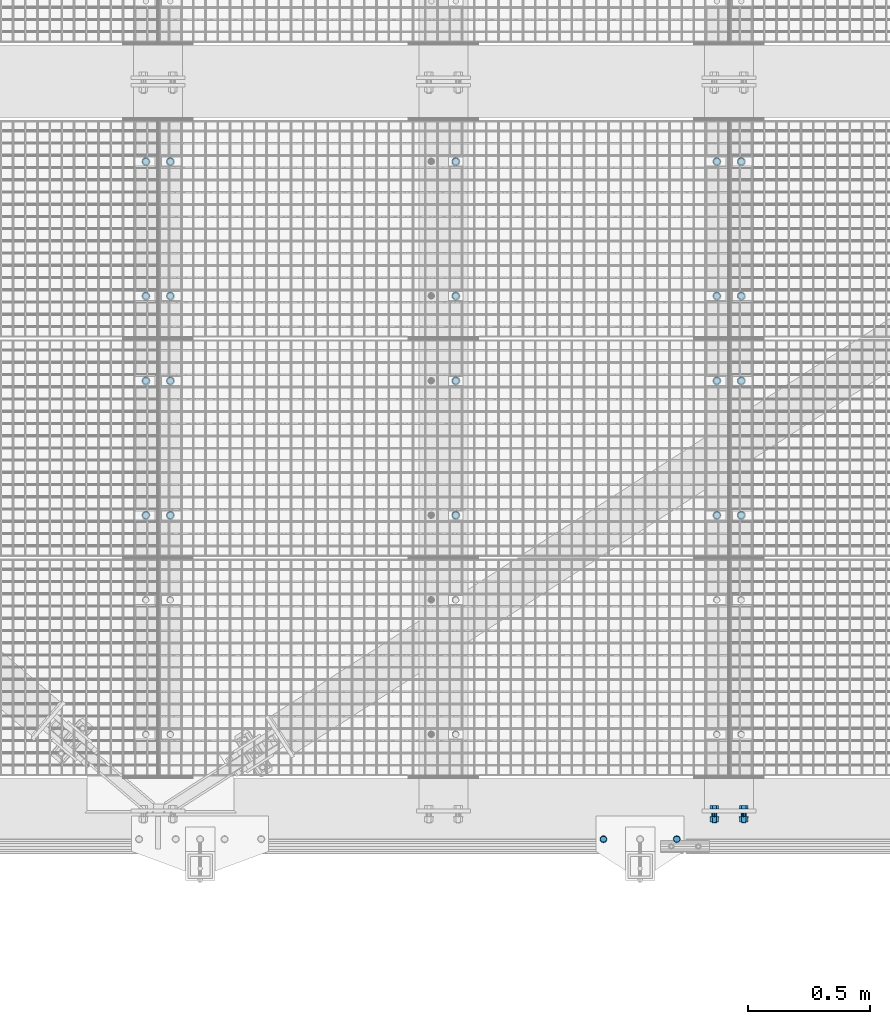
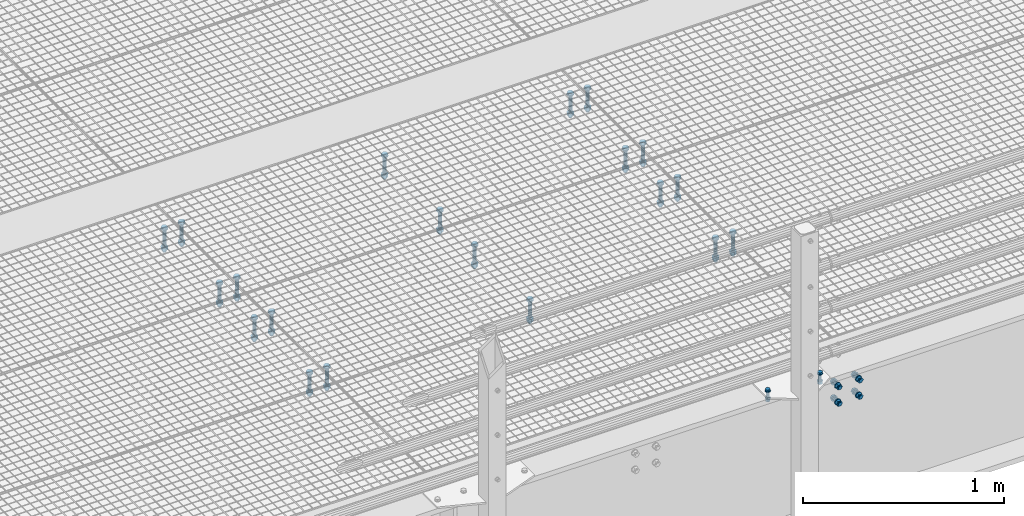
# One storey, part 19 of 1530: 12 mechanical fasteners.
"""IFC2X3 building model written with IfcOpenShell, lengths in millimetres."""

from ifc_helpers import new_model, si_unit, frame, origin_with_axes, place, context, subcontext, project, spatial, faceted_brep, source, transform, mapped, material, type_object, element, save


model = new_model("IFC2X3")

# Units and contexts
model_context = context("Model", 3, precision=1e-05, world=origin_with_axes())
body_context = subcontext(model_context, "Body", "Model", "MODEL_VIEW")
ifc_project = project(units=[si_unit("LENGTHUNIT", "METRE", prefix="MILLI"), si_unit("AREAUNIT", "SQUARE_METRE"), si_unit("VOLUMEUNIT", "CUBIC_METRE"), si_unit("MASSUNIT", "GRAM", prefix="KILO"), si_unit("TIMEUNIT", "SECOND"), si_unit("PLANEANGLEUNIT", "RADIAN"), si_unit("SOLIDANGLEUNIT", "STERADIAN"), si_unit("THERMODYNAMICTEMPERATUREUNIT", "DEGREE_CELSIUS"), si_unit("LUMINOUSINTENSITYUNIT", "LUMEN")], contexts=[model_context])

# Site, building, storey
site_placement = place(None, origin_with_axes())
site = spatial("IfcSite", under=ifc_project, at=site_placement, Name="Brattvåg", CompositionType="ELEMENT")
building_placement = place(site_placement, origin_with_axes())
building = spatial("IfcBuilding", under=site, at=building_placement, Name="Undefined", CompositionType="ELEMENT")
storey_placement = place(building_placement, origin_with_axes())
storey = spatial("IfcBuildingStorey", under=building, at=storey_placement, Name="Undefined", CompositionType="ELEMENT", Elevation=0.0)

# Mechanical fasteners
ifc_material = material(Name="8")
mechanical_fastener_type = type_object("IfcMechanicalFastenerType", Name="Bolt assembly")
shared_shape_1 = source(origin_with_axes(), body_context, "Body", "Brep", [
    faceted_brep([(17.3205080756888, -10.5, 0.0), (8.66025403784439, -10.5, 15.0), (-8.66025403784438, -10.5, 15.0), (-17.3205080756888, -10.5, 2.12115047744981e-15), (-8.66025403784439, -10.5, -15.0), (8.66025403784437, -10.5, -15.0), (8.66025403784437, 2.0, -15.0), (-8.66025403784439, 2.0, -15.0), (-17.3205080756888, 2.0, 2.12115047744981e-15), (-8.66025403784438, 2.0, 15.0), (8.66025403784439, 2.0, 15.0), (17.3205080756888, 2.0, 0.0), (10.0, 2.0, 0.0), (8.66025403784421, 2.0, 5.0000000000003), (4.9999999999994, 2.0, 8.66025403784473), (-1.03633598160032e-12, 2.0, 10.0), (-5.00000000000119, 2.0, 8.6602540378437), (-8.66025403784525, 2.0, 4.99999999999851), (-10.0, 2.0, -2.07267196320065e-12), (-8.66025403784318, 2.0, -5.00000000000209), (-4.99999999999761, 2.0, -8.66025403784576), (3.09790571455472e-12, 2.0, -10.0), (5.00000000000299, 2.0, -8.66025403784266), (8.66025403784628, 2.0, -4.99999999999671), (8.66025403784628, 142.0, -4.99999999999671), (5.00000000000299, 142.0, -8.66025403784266), (3.09790571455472e-12, 142.0, -10.0), (-4.99999999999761, 142.0, -8.66025403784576), (-8.66025403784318, 142.0, -5.00000000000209), (-10.0, 142.0, -2.07267196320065e-12), (-8.66025403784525, 142.0, 4.99999999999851), (-5.00000000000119, 142.0, 8.6602540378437), (-1.03633598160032e-12, 142.0, 10.0), (4.9999999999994, 142.0, 8.66025403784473), (8.66025403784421, 142.0, 5.0000000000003), (10.0, 142.0, 0.0), (18.5, 2.0, 0.0), (16.0214699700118, 2.0, 9.25000000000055), (9.2499999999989, 2.0, 16.0214699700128), (-1.9172215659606e-12, 2.0, 18.5), (-9.25000000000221, 2.0, 16.0214699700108), (-16.0214699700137, 2.0, 9.24999999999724), (-18.5, 2.0, -3.83444313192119e-12), (-16.0214699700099, 2.0, -9.25000000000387), (-9.24999999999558, 2.0, -16.0214699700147), (5.73112557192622e-12, 2.0, -18.5), (9.25000000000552, 2.0, -16.0214699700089), (16.0214699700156, 2.0, -9.24999999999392), (16.0214699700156, 5.0, -9.24999999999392), (9.25000000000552, 5.0, -16.0214699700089), (5.73112557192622e-12, 5.0, -18.5), (-9.24999999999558, 5.0, -16.0214699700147), (-16.0214699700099, 5.0, -9.25000000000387), (-18.5, 5.0, -3.83444313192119e-12), (-16.0214699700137, 5.0, 9.24999999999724), (-9.25000000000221, 5.0, 16.0214699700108), (-1.9172215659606e-12, 5.0, 18.5), (9.2499999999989, 5.0, 16.0214699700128), (16.0214699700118, 5.0, 9.25000000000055), (18.5, 5.0, 0.0), (18.5, 109.998931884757, 0.0), (16.0214699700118, 109.998931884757, 9.25000000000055), (9.2499999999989, 109.998931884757, 16.0214699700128), (-1.9172215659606e-12, 109.998931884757, 18.5), (-9.25000000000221, 109.998931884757, 16.0214699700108), (-16.0214699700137, 109.998931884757, 9.24999999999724), (-18.5, 109.998931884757, -3.83444313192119e-12), (-16.0214699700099, 109.998931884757, -9.25000000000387), (-9.24999999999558, 109.998931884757, -16.0214699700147), (5.73112557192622e-12, 109.998931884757, -18.5), (9.25000000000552, 109.998931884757, -16.0214699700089), (16.0214699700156, 109.998931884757, -9.24999999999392), (16.0214699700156, 112.998931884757, -9.24999999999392), (9.25000000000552, 112.998931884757, -16.0214699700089), (5.73112557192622e-12, 112.998931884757, -18.5), (-9.24999999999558, 112.998931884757, -16.0214699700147), (-16.0214699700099, 112.998931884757, -9.25000000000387), (-18.5, 112.998931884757, -3.83444313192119e-12), (-16.0214699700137, 112.998931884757, 9.24999999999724), (-9.25000000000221, 112.998931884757, 16.0214699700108), (-1.9172215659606e-12, 112.998931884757, 18.5), (9.2499999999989, 112.998931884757, 16.0214699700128), (16.0214699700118, 112.998931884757, 9.25000000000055), (18.5, 112.998931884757, 0.0), (17.3205080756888, 112.998931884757, 0.0), (8.66025403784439, 112.998931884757, 15.0), (-8.66025403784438, 112.998931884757, 15.0), (-17.3205080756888, 112.998931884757, 2.12115047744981e-15), (-8.66025403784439, 112.998931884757, -15.0), (8.66025403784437, 112.998931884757, -15.0), (8.66025403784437, 130.998931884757, -15.0), (-8.66025403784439, 130.998931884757, -15.0), (-17.3205080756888, 130.998931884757, 2.12115047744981e-15), (-8.66025403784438, 130.998931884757, 15.0), (8.66025403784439, 130.998931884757, 15.0), (17.3205080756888, 130.998931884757, 0.0)], [[[0, 1, 2, 3, 4, 5]], [[6, 7, 8, 9, 10, 11]], [[0, 11, 10, 1]], [[1, 10, 9, 2]], [[2, 9, 8, 3]], [[3, 8, 7, 4]], [[4, 7, 6, 5]], [[5, 6, 11, 0]], [[12, 13, 14, 15, 16, 17, 18, 19, 20, 21, 22, 23]], [[24, 25, 26, 27, 28, 29, 30, 31, 32, 33, 34, 35]], [[12, 35, 34, 13]], [[13, 34, 33, 14]], [[14, 33, 32, 15]], [[15, 32, 31, 16]], [[16, 31, 30, 17]], [[17, 30, 29, 18]], [[18, 29, 28, 19]], [[19, 28, 27, 20]], [[20, 27, 26, 21]], [[21, 26, 25, 22]], [[22, 25, 24, 23]], [[23, 24, 35, 12]], [[36, 37, 38, 39, 40, 41, 42, 43, 44, 45, 46, 47]], [[48, 49, 50, 51, 52, 53, 54, 55, 56, 57, 58, 59]], [[36, 59, 58, 37]], [[37, 58, 57, 38]], [[38, 57, 56, 39]], [[39, 56, 55, 40]], [[40, 55, 54, 41]], [[41, 54, 53, 42]], [[42, 53, 52, 43]], [[43, 52, 51, 44]], [[44, 51, 50, 45]], [[45, 50, 49, 46]], [[46, 49, 48, 47]], [[47, 48, 59, 36]], [[60, 61, 62, 63, 64, 65, 66, 67, 68, 69, 70, 71]], [[72, 73, 74, 75, 76, 77, 78, 79, 80, 81, 82, 83]], [[60, 83, 82, 61]], [[61, 82, 81, 62]], [[62, 81, 80, 63]], [[63, 80, 79, 64]], [[64, 79, 78, 65]], [[65, 78, 77, 66]], [[66, 77, 76, 67]], [[67, 76, 75, 68]], [[68, 75, 74, 69]], [[69, 74, 73, 70]], [[70, 73, 72, 71]], [[71, 72, 83, 60]], [[84, 85, 86, 87, 88, 89]], [[90, 91, 92, 93, 94, 95]], [[84, 95, 94, 85]], [[85, 94, 93, 86]], [[86, 93, 92, 87]], [[87, 92, 91, 88]], [[88, 91, 90, 89]], [[89, 90, 95, 84]]]),
])
for number, where, z_axis, x_axis, name in (
    (1, (9964.00477935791, 2121.91931152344, -25.0), (-1.0, 1.99999855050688e-09, 0.0), (0.0, 1.0, 0.0), "Bolt assembly"),
    (2, (9864.01487731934, 2121.9204864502, -25.0), (-1.0, 1.99999855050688e-09, 0.0), (0.0, 1.0, 0.0), "Bolt assembly"),
    (3, (8796.01192543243, 2121.99, -25.0), (-1.0, 1.99999855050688e-09, 0.0), (0.0, 1.0, 0.0), "Bolt assembly"),
    (4, (7628.00477935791, 2121.91931152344, -25.0), (-1.0, 1.99999855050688e-09, 0.0), (0.0, 1.0, 0.0), "Bolt assembly"),
    (5, (7528.01487731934, 2121.9204864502, -25.0), (-1.0, 1.99999855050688e-09, 0.0), (0.0, 1.0, 0.0), "Bolt assembly"),
    (6, (9964.00477935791, 1224.91931152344, -25.0), (-1.0, 1.99999855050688e-09, 0.0), (0.0, 1.0, 0.0), "Bolt assembly"),
    (7, (9864.01487731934, 1224.9204864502, -25.0), (-1.0, 1.99999855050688e-09, 0.0), (0.0, 1.0, 0.0), "Bolt assembly"),
    (8, (8796.01192543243, 1224.99, -25.0), (-1.0, 1.99999855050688e-09, 0.0), (0.0, 1.0, 0.0), "Bolt assembly"),
    (9, (7628.00477935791, 1224.91931152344, -25.0), (-1.0, 1.99999855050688e-09, 0.0), (0.0, 1.0, 0.0), "Bolt assembly"),
    (10, (7528.01487731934, 1224.9204864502, -25.0), (-1.0, 1.99999855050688e-09, 0.0), (0.0, 1.0, 0.0), "Bolt assembly"),
):
    element("IfcMechanicalFastener", number, at=place(storey_placement, frame(where, z_axis=z_axis, x_axis=x_axis)), inside=storey, type_object=mechanical_fastener_type, material=ifc_material, Name=name, NominalDiameter=20.0, NominalLength=140.0, context=body_context, shape_type="MappedRepresentation", body=[
        mapped(shared_shape_1, transform((0.0, 0.0, 0.0))),
        mapped(shared_shape_1, transform((549.999999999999, 0.0, 0.0))),
    ])
shared_shape_2 = source(origin_with_axes(), body_context, "Body", "Brep", [
    faceted_brep([(13.856406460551, -13.0, 0.0), (6.92820323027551, -13.0, 12.0), (-6.92820323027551, -13.0, 12.0), (-13.856406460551, -13.0, 1.69692038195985e-15), (-6.92820323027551, -13.0, -12.0), (6.9282032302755, -13.0, -12.0), (6.9282032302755, -3.0, -12.0), (-6.92820323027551, -3.0, -12.0), (-13.856406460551, -3.0, 1.69692038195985e-15), (-6.92820323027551, -3.0, 12.0), (6.92820323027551, -3.0, 12.0), (13.856406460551, -3.0, 0.0), (8.0, -3.0, 0.0), (6.92820323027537, -3.0, 4.00000000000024), (3.99999999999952, -3.0, 6.92820323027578), (-8.29068785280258e-13, -3.0, 8.0), (-4.00000000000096, -3.0, 6.92820323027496), (-6.9282032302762, -3.0, 3.99999999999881), (-8.0, -3.0, -1.65813757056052e-12), (-6.92820323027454, -3.0, -4.00000000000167), (-3.99999999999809, -3.0, -6.92820323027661), (2.47832457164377e-12, -3.0, -8.0), (4.00000000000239, -3.0, -6.92820323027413), (6.92820323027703, -3.0, -3.99999999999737), (6.92820323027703, 62.0000000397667, -3.99999999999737), (4.00000000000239, 62.0000000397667, -6.92820323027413), (2.47832457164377e-12, 62.0000000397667, -8.0), (-3.99999999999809, 62.0000000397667, -6.92820323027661), (-6.92820323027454, 62.0000000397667, -4.00000000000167), (-8.0, 62.0000000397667, -1.65813757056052e-12), (-6.9282032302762, 62.0000000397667, 3.99999999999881), (-4.00000000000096, 62.0000000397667, 6.92820323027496), (-8.29068785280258e-13, 62.0000000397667, 8.0), (3.99999999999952, 62.0000000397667, 6.92820323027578), (6.92820323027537, 62.0000000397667, 4.00000000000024), (8.0, 62.0000000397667, 0.0), (15.0, -3.0, 0.0), (12.9903810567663, -3.0, 7.50000000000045), (7.4999999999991, -3.0, 12.9903810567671), (-1.55450397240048e-12, -3.0, 15.0), (-7.50000000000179, -3.0, 12.9903810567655), (-12.9903810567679, -3.0, 7.49999999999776), (-15.0, -3.0, -3.10900794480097e-12), (-12.9903810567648, -3.0, -7.50000000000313), (-7.49999999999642, -3.0, -12.9903810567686), (4.64685857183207e-12, -3.0, -15.0), (7.50000000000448, -3.0, -12.990381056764), (12.9903810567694, -3.0, -7.49999999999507), (12.9903810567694, 0.0, -7.49999999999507), (7.50000000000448, 0.0, -12.990381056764), (0.0, 0.0, -15.0), (-7.49999999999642, 0.0, -12.9903810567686), (-12.9903810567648, 0.0, -7.50000000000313), (-15.0, 0.0, -3.10900794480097e-12), (-12.9903810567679, 0.0, 7.49999999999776), (-7.50000000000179, 0.0, 12.9903810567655), (0.0, 0.0, 15.0), (7.4999999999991, 0.0, 12.9903810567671), (12.9903810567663, 0.0, 7.50000000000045), (15.0, 0.0, 0.0), (15.0, 39.9997390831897, 0.0), (12.9903810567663, 39.9997390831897, 7.50000000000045), (7.4999999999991, 39.9997390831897, 12.9903810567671), (-1.55450397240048e-12, 39.9997390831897, 15.0), (-7.50000000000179, 39.9997390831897, 12.9903810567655), (-12.9903810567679, 39.9997390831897, 7.49999999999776), (-15.0, 39.9997390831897, -3.10900794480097e-12), (-12.9903810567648, 39.9997390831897, -7.50000000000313), (-7.49999999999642, 39.9997390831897, -12.9903810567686), (4.64685857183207e-12, 39.9997390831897, -15.0), (7.50000000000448, 39.9997390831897, -12.990381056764), (12.9903810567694, 39.9997390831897, -7.49999999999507), (12.9903810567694, 42.9997390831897, -7.49999999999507), (7.50000000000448, 42.9997390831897, -12.990381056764), (4.64685857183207e-12, 42.9997390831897, -15.0), (-7.49999999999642, 42.9997390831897, -12.9903810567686), (-12.9903810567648, 42.9997390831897, -7.50000000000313), (-15.0, 42.9997390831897, -3.10900794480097e-12), (-12.9903810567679, 42.9997390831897, 7.49999999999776), (-7.50000000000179, 42.9997390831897, 12.9903810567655), (-1.55450397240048e-12, 42.9997390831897, 15.0), (7.4999999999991, 42.9997390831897, 12.9903810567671), (12.9903810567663, 42.9997390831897, 7.50000000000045), (15.0, 42.9997390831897, 0.0), (13.856406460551, 42.9997390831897, 0.0), (6.92820323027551, 42.9997390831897, 12.0), (-6.92820323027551, 42.9997390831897, 12.0), (-13.856406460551, 42.9997390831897, 1.69692038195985e-15), (-6.92820323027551, 42.9997390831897, -12.0), (6.9282032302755, 42.9997390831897, -12.0), (6.9282032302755, 57.7997392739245, -12.0), (-6.92820323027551, 57.7997392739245, -12.0), (-13.856406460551, 57.7997392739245, 1.69692038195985e-15), (-6.92820323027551, 57.7997392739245, 12.0), (6.92820323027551, 57.7997392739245, 12.0), (13.856406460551, 57.7997392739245, 0.0)], [[[0, 1, 2, 3, 4, 5]], [[6, 7, 8, 9, 10, 11]], [[0, 11, 10, 1]], [[1, 10, 9, 2]], [[2, 9, 8, 3]], [[3, 8, 7, 4]], [[4, 7, 6, 5]], [[5, 6, 11, 0]], [[12, 13, 14, 15, 16, 17, 18, 19, 20, 21, 22, 23]], [[24, 25, 26, 27, 28, 29, 30, 31, 32, 33, 34, 35]], [[12, 35, 34, 13]], [[13, 34, 33, 14]], [[14, 33, 32, 15]], [[15, 32, 31, 16]], [[16, 31, 30, 17]], [[17, 30, 29, 18]], [[18, 29, 28, 19]], [[19, 28, 27, 20]], [[20, 27, 26, 21]], [[21, 26, 25, 22]], [[22, 25, 24, 23]], [[23, 24, 35, 12]], [[36, 37, 38, 39, 40, 41, 42, 43, 44, 45, 46, 47]], [[48, 49, 50, 51, 52, 53, 54, 55, 56, 57, 58, 59]], [[36, 59, 58, 37]], [[37, 58, 57, 38]], [[38, 57, 56, 39]], [[39, 56, 55, 40]], [[40, 55, 54, 41]], [[41, 54, 53, 42]], [[42, 53, 52, 43]], [[43, 52, 51, 44]], [[44, 51, 50, 45]], [[45, 50, 49, 46]], [[46, 49, 48, 47]], [[47, 48, 59, 36]], [[60, 61, 62, 63, 64, 65, 66, 67, 68, 69, 70, 71]], [[72, 73, 74, 75, 76, 77, 78, 79, 80, 81, 82, 83]], [[60, 83, 82, 61]], [[61, 82, 81, 62]], [[62, 81, 80, 63]], [[63, 80, 79, 64]], [[64, 79, 78, 65]], [[65, 78, 77, 66]], [[66, 77, 76, 67]], [[67, 76, 75, 68]], [[68, 75, 74, 69]], [[69, 74, 73, 70]], [[70, 73, 72, 71]], [[71, 72, 83, 60]], [[84, 85, 86, 87, 88, 89]], [[90, 91, 92, 93, 94, 95]], [[84, 95, 94, 85]], [[85, 94, 93, 86]], [[86, 93, 92, 87]], [[87, 92, 91, 88]], [[88, 91, 90, 89]], [[89, 90, 95, 84]]]),
    faceted_brep([(9.0, 0.1, 0.0), (7.79422863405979, 0.1, 4.50000000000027), (4.49999999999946, 0.1, 7.79422863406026), (-9.3270238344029e-13, 0.1, 9.0), (-4.50000000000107, 0.1, 7.79422863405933), (-7.79422863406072, 0.1, 4.49999999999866), (-9.0, 0.1, -1.86540476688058e-12), (-7.79422863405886, 0.1, -4.50000000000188), (-4.49999999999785, 0.1, -7.79422863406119), (2.78811514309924e-12, 0.1, -9.0), (4.50000000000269, 0.1, -7.7942286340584), (7.79422863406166, 0.1, -4.49999999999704), (7.79422863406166, 10.1, -4.49999999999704), (4.50000000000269, 10.1, -7.7942286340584), (2.78811514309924e-12, 10.1, -9.0), (-4.49999999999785, 10.1, -7.79422863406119), (-7.79422863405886, 10.1, -4.50000000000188), (-9.0, 10.1, -1.86540476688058e-12), (-7.79422863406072, 10.1, 4.49999999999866), (-4.50000000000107, 10.1, 7.79422863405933), (-9.3270238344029e-13, 10.1, 9.0), (4.49999999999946, 10.1, 7.79422863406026), (7.79422863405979, 10.1, 4.50000000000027), (9.0, 10.1, 0.0), (9.0, 9.8997390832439, 0.0), (7.79422863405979, 9.8997390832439, 4.50000000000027), (4.49999999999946, 9.8997390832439, 7.79422863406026), (-9.3270238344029e-13, 9.8997390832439, 9.0), (-4.50000000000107, 9.8997390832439, 7.79422863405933), (-7.79422863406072, 9.8997390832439, 4.49999999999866), (-9.0, 9.8997390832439, -1.86540476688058e-12), (-7.79422863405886, 9.8997390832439, -4.50000000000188), (-4.49999999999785, 9.8997390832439, -7.79422863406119), (2.78811514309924e-12, 9.8997390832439, -9.0), (4.50000000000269, 9.8997390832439, -7.7942286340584), (7.79422863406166, 9.8997390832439, -4.49999999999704), (7.79422863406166, 39.9997390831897, -4.49999999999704), (4.50000000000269, 39.9997390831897, -7.7942286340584), (2.78811514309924e-12, 39.9997390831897, -9.0), (-4.49999999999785, 39.9997390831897, -7.79422863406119), (-7.79422863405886, 39.9997390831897, -4.50000000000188), (-9.0, 39.9997390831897, -1.86540476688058e-12), (-7.79422863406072, 39.9997390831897, 4.49999999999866), (-4.50000000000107, 39.9997390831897, 7.79422863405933), (-9.3270238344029e-13, 39.9997390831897, 9.0), (4.49999999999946, 39.9997390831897, 7.79422863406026), (7.79422863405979, 39.9997390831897, 4.50000000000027), (9.0, 39.9997390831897, 0.0)], [[[0, 1, 2, 3, 4, 5, 6, 7, 8, 9, 10, 11]], [[12, 13, 14, 15, 16, 17, 18, 19, 20, 21, 22, 23]], [[0, 23, 22, 1]], [[1, 22, 21, 2]], [[2, 21, 20, 3]], [[3, 20, 19, 4]], [[4, 19, 18, 5]], [[5, 18, 17, 6]], [[6, 17, 16, 7]], [[7, 16, 15, 8]], [[8, 15, 14, 9]], [[9, 14, 13, 10]], [[10, 13, 12, 11]], [[11, 12, 23, 0]], [[24, 25, 26, 27, 28, 29, 30, 31, 32, 33, 34, 35]], [[36, 37, 38, 39, 40, 41, 42, 43, 44, 45, 46, 47]], [[24, 47, 46, 25]], [[25, 46, 45, 26]], [[26, 45, 44, 27]], [[27, 44, 43, 28]], [[28, 43, 42, 29]], [[29, 42, 41, 30]], [[30, 41, 40, 31]], [[31, 40, 39, 32]], [[32, 39, 38, 33]], [[33, 38, 37, 34]], [[34, 37, 36, 35]], [[35, 36, 47, 24]]]),
])
mechanical_fastener_1_placement = place(storey_placement, frame((9400.00080864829, -99.9996071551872, 9.99973908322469), z_axis=(0.0, 1.0, 0.0), x_axis=(1.0, 0.0, 0.0)))
element("IfcMechanicalFastener", 11, at=mechanical_fastener_1_placement, inside=storey, type_object=mechanical_fastener_type, material=ifc_material, Name="Bolt assembly", NominalDiameter=16.0, NominalLength=65.0, context=body_context, shape_type="MappedRepresentation", body=[
    mapped(shared_shape_2, transform((0.0, 0.0, 0.0))),
    mapped(shared_shape_2, transform((300.0, 0.0, 0.0))),
])
shared_shape_3 = source(origin_with_axes(), body_context, "Body", "Brep", [
    faceted_brep([(17.3205080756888, -15.5000000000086, 0.0), (8.66025403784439, -15.5000000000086, 15.0), (-8.66025403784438, -15.5000000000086, 15.0), (-17.3205080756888, -15.5000000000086, 2.12115047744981e-15), (-8.66025403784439, -15.5000000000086, -15.0), (8.66025403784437, -15.5000000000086, -15.0), (8.66025403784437, -3.00000000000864, -15.0), (-8.66025403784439, -3.00000000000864, -15.0), (-17.3205080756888, -3.00000000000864, 2.12115047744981e-15), (-8.66025403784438, -3.00000000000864, 15.0), (8.66025403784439, -3.00000000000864, 15.0), (17.3205080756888, -3.00000000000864, 0.0), (10.0, -3.00000000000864, 0.0), (8.66025403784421, -3.00000000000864, 5.0000000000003), (4.9999999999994, -3.00000000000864, 8.66025403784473), (-1.03633598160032e-12, -3.00000000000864, 10.0), (-5.00000000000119, -3.00000000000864, 8.6602540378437), (-8.66025403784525, -3.00000000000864, 4.99999999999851), (-10.0, -3.00000000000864, -2.07267196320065e-12), (-8.66025403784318, -3.00000000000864, -5.00000000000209), (-4.99999999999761, -3.00000000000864, -8.66025403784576), (3.09790571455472e-12, -3.00000000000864, -10.0), (5.00000000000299, -3.00000000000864, -8.66025403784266), (8.66025403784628, -3.00000000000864, -4.99999999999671), (8.66025403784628, 57.0, -4.99999999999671), (5.00000000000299, 57.0, -8.66025403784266), (3.09790571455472e-12, 57.0, -10.0), (-4.99999999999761, 57.0, -8.66025403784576), (-8.66025403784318, 57.0, -5.00000000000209), (-10.0, 57.0, -2.07267196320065e-12), (-8.66025403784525, 57.0, 4.99999999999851), (-5.00000000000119, 57.0, 8.6602540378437), (-1.03633598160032e-12, 57.0, 10.0), (4.9999999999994, 57.0, 8.66025403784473), (8.66025403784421, 57.0, 5.0000000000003), (10.0, 57.0, 0.0), (18.5, -3.00000000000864, 0.0), (16.0214699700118, -3.00000000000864, 9.25000000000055), (9.2499999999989, -3.00000000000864, 16.0214699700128), (-1.9172215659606e-12, -3.00000000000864, 18.5), (-9.25000000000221, -3.00000000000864, 16.0214699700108), (-16.0214699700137, -3.00000000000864, 9.24999999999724), (-18.5, -3.00000000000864, -3.83444313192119e-12), (-16.0214699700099, -3.00000000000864, -9.25000000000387), (-9.24999999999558, -3.00000000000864, -16.0214699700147), (5.73112557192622e-12, -3.00000000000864, -18.5), (9.25000000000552, -3.00000000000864, -16.0214699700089), (16.0214699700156, -3.00000000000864, -9.24999999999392), (16.0214699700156, -8.64019966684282e-12, -9.24999999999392), (9.25000000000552, -8.64019966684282e-12, -16.0214699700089), (5.73112557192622e-12, -8.64019966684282e-12, -18.5), (-9.24999999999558, -8.64019966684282e-12, -16.0214699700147), (-16.0214699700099, -8.64019966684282e-12, -9.25000000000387), (-18.5, -8.64019966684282e-12, -3.83444313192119e-12), (-16.0214699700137, -8.64019966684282e-12, 9.24999999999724), (-9.25000000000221, -8.64019966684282e-12, 16.0214699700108), (-1.9172215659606e-12, -8.64019966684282e-12, 18.5), (9.2499999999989, -8.64019966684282e-12, 16.0214699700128), (16.0214699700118, -8.64019966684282e-12, 9.25000000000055), (18.5, -8.64019966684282e-12, 0.0), (18.5, 31.0015563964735, 0.0), (16.0214699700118, 31.0015563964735, 9.25000000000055), (9.2499999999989, 31.0015563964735, 16.0214699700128), (-1.9172215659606e-12, 31.0015563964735, 18.5), (-9.25000000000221, 31.0015563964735, 16.0214699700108), (-16.0214699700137, 31.0015563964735, 9.24999999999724), (-18.5, 31.0015563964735, -3.83444313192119e-12), (-16.0214699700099, 31.0015563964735, -9.25000000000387), (-9.24999999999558, 31.0015563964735, -16.0214699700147), (5.73112557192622e-12, 31.0015563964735, -18.5), (9.25000000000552, 31.0015563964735, -16.0214699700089), (16.0214699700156, 31.0015563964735, -9.24999999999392), (16.0214699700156, 34.0015563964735, -9.24999999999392), (9.25000000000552, 34.0015563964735, -16.0214699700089), (5.73112557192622e-12, 34.0015563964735, -18.5), (-9.24999999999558, 34.0015563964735, -16.0214699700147), (-16.0214699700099, 34.0015563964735, -9.25000000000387), (-18.5, 34.0015563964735, -3.83444313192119e-12), (-16.0214699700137, 34.0015563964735, 9.24999999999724), (-9.25000000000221, 34.0015563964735, 16.0214699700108), (-1.9172215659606e-12, 34.0015563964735, 18.5), (9.2499999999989, 34.0015563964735, 16.0214699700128), (16.0214699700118, 34.0015563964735, 9.25000000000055), (18.5, 34.0015563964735, 0.0), (17.3205080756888, 34.0015563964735, 0.0), (8.66025403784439, 34.0015563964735, 15.0), (-8.66025403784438, 34.0015563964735, 15.0), (-17.3205080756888, 34.0015563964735, 2.12115047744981e-15), (-8.66025403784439, 34.0015563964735, -15.0), (8.66025403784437, 34.0015563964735, -15.0), (8.66025403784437, 52.0015563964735, -15.0), (-8.66025403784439, 52.0015563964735, -15.0), (-17.3205080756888, 52.0015563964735, 2.12115047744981e-15), (-8.66025403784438, 52.0015563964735, 15.0), (8.66025403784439, 52.0015563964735, 15.0), (17.3205080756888, 52.0015563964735, 0.0)], [[[0, 1, 2, 3, 4, 5]], [[6, 7, 8, 9, 10, 11]], [[0, 11, 10, 1]], [[1, 10, 9, 2]], [[2, 9, 8, 3]], [[3, 8, 7, 4]], [[4, 7, 6, 5]], [[5, 6, 11, 0]], [[12, 13, 14, 15, 16, 17, 18, 19, 20, 21, 22, 23]], [[24, 25, 26, 27, 28, 29, 30, 31, 32, 33, 34, 35]], [[12, 35, 34, 13]], [[13, 34, 33, 14]], [[14, 33, 32, 15]], [[15, 32, 31, 16]], [[16, 31, 30, 17]], [[17, 30, 29, 18]], [[18, 29, 28, 19]], [[19, 28, 27, 20]], [[20, 27, 26, 21]], [[21, 26, 25, 22]], [[22, 25, 24, 23]], [[23, 24, 35, 12]], [[36, 37, 38, 39, 40, 41, 42, 43, 44, 45, 46, 47]], [[48, 49, 50, 51, 52, 53, 54, 55, 56, 57, 58, 59]], [[36, 59, 58, 37]], [[37, 58, 57, 38]], [[38, 57, 56, 39]], [[39, 56, 55, 40]], [[40, 55, 54, 41]], [[41, 54, 53, 42]], [[42, 53, 52, 43]], [[43, 52, 51, 44]], [[44, 51, 50, 45]], [[45, 50, 49, 46]], [[46, 49, 48, 47]], [[47, 48, 59, 36]], [[60, 61, 62, 63, 64, 65, 66, 67, 68, 69, 70, 71]], [[72, 73, 74, 75, 76, 77, 78, 79, 80, 81, 82, 83]], [[60, 83, 82, 61]], [[61, 82, 81, 62]], [[62, 81, 80, 63]], [[63, 80, 79, 64]], [[64, 79, 78, 65]], [[65, 78, 77, 66]], [[66, 77, 76, 67]], [[67, 76, 75, 68]], [[68, 75, 74, 69]], [[69, 74, 73, 70]], [[70, 73, 72, 71]], [[71, 72, 83, 60]], [[84, 85, 86, 87, 88, 89]], [[90, 91, 92, 93, 94, 95]], [[84, 95, 94, 85]], [[85, 94, 93, 86]], [[86, 93, 92, 87]], [[87, 92, 91, 88]], [[88, 91, 90, 89]], [[89, 90, 95, 84]]]),
    faceted_brep([(11.0, 0.1, 0.0), (9.52627944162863, 0.1, 5.50000000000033), (5.49999999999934, 0.1, 9.5262794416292), (-1.13996957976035e-12, 0.1, 11.0), (-5.50000000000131, 0.1, 9.52627944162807), (-9.52627944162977, 0.1, 5.49999999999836), (-11.0, 0.1, -2.27993915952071e-12), (-9.5262794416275, 0.1, -5.5000000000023), (-5.49999999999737, 0.1, -9.52627944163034), (3.40769628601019e-12, 0.1, -11.0), (5.50000000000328, 0.1, -9.52627944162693), (9.52627944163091, 0.1, -5.49999999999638), (9.52627944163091, 15.1, -5.49999999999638), (5.50000000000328, 15.1, -9.52627944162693), (3.40769628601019e-12, 15.1, -11.0), (-5.49999999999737, 15.1, -9.52627944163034), (-9.5262794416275, 15.1, -5.5000000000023), (-11.0, 15.1, -2.27993915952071e-12), (-9.52627944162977, 15.1, 5.49999999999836), (-5.50000000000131, 15.1, 9.52627944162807), (-1.13996957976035e-12, 15.1, 11.0), (5.49999999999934, 15.1, 9.5262794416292), (9.52627944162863, 15.1, 5.50000000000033), (11.0, 15.1, 0.0), (11.0, 14.9015563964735, 0.0), (9.52627944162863, 14.9015563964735, 5.50000000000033), (5.49999999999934, 14.9015563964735, 9.5262794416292), (-1.13996957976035e-12, 14.9015563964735, 11.0), (-5.50000000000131, 14.9015563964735, 9.52627944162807), (-9.52627944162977, 14.9015563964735, 5.49999999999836), (-11.0, 14.9015563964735, -2.27993915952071e-12), (-9.5262794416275, 14.9015563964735, -5.5000000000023), (-5.49999999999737, 14.9015563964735, -9.52627944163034), (3.40769628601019e-12, 14.9015563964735, -11.0), (5.50000000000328, 14.9015563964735, -9.52627944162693), (9.52627944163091, 14.9015563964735, -5.49999999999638), (9.52627944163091, 31.0015563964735, -5.49999999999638), (5.50000000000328, 31.0015563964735, -9.52627944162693), (3.40769628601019e-12, 31.0015563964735, -11.0), (-5.49999999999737, 31.0015563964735, -9.52627944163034), (-9.5262794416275, 31.0015563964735, -5.5000000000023), (-11.0, 31.0015563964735, -2.27993915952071e-12), (-9.52627944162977, 31.0015563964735, 5.49999999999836), (-5.50000000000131, 31.0015563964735, 9.52627944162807), (-1.13996957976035e-12, 31.0015563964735, 11.0), (5.49999999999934, 31.0015563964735, 9.5262794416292), (9.52627944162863, 31.0015563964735, 5.50000000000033), (11.0, 31.0015563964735, 0.0)], [[[0, 1, 2, 3, 4, 5, 6, 7, 8, 9, 10, 11]], [[12, 13, 14, 15, 16, 17, 18, 19, 20, 21, 22, 23]], [[0, 23, 22, 1]], [[1, 22, 21, 2]], [[2, 21, 20, 3]], [[3, 20, 19, 4]], [[4, 19, 18, 5]], [[5, 18, 17, 6]], [[6, 17, 16, 7]], [[7, 16, 15, 8]], [[8, 15, 14, 9]], [[9, 14, 13, 10]], [[10, 13, 12, 11]], [[11, 12, 23, 0]], [[24, 25, 26, 27, 28, 29, 30, 31, 32, 33, 34, 35]], [[36, 37, 38, 39, 40, 41, 42, 43, 44, 45, 46, 47]], [[24, 47, 46, 25]], [[25, 46, 45, 26]], [[26, 45, 44, 27]], [[27, 44, 43, 28]], [[28, 43, 42, 29]], [[29, 42, 41, 30]], [[30, 41, 40, 31]], [[31, 40, 39, 32]], [[32, 39, 38, 33]], [[33, 38, 37, 34]], [[34, 37, 36, 35]], [[35, 36, 47, 24]]]),
])
mechanical_fastener_2_placement = place(storey_placement, frame((9974.00196838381, 23.0015563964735, -219.998836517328), z_axis=(0.0, 0.0, 1.0), x_axis=(-1.0, 1.99999855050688e-09, 0.0)))
element("IfcMechanicalFastener", 12, at=mechanical_fastener_2_placement, inside=storey, type_object=mechanical_fastener_type, material=ifc_material, Name="Bolt assembly", NominalDiameter=20.0, NominalLength=60.0, context=body_context, shape_type="MappedRepresentation", body=[
    mapped(shared_shape_3, transform((0.0, 0.0, -50.0))),
    mapped(shared_shape_3, transform((120.0, 0.0, -50.0))),
    mapped(shared_shape_3, transform((0.0, 0.0, 50.0))),
    mapped(shared_shape_3, transform((120.0, 0.0, 50.0))),
])

save(model, "model.ifc")
